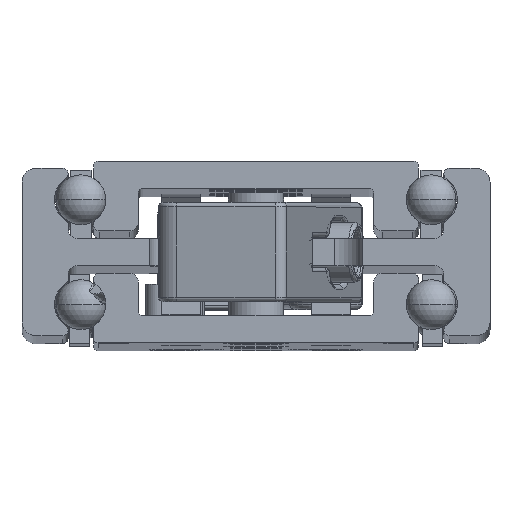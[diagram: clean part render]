
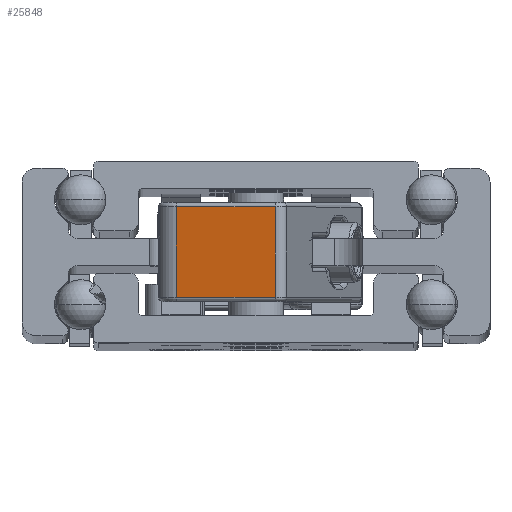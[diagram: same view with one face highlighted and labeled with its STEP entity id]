
A CAD part, top view. The second image highlights one B-rep face of the part: STEP entity #25848.
In plain terms, the highlighted planar face has unit normal (-0.225, 0, 0.974) as drawn and (-1, 0, 0) by its records, which use the part's own axes.
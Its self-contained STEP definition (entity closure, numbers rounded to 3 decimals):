
#2814 = LINE ( 'NONE', #23986, #20105 ) ;
#3807 = VERTEX_POINT ( 'NONE', #17914 ) ;
#4659 = DIRECTION ( 'NONE',  ( 0., -1., 0. ) ) ;
#6021 = LINE ( 'NONE', #13073, #7589 ) ;
#6763 = EDGE_CURVE ( 'NONE', #11718, #29014, #2814, .T. ) ;
#7589 = VECTOR ( 'NONE', #8477, 1000. ) ;
#8477 = DIRECTION ( 'NONE',  ( 0., 1., 0. ) ) ;
#9177 = LINE ( 'NONE', #14230, #11961 ) ;
#10077 = ORIENTED_EDGE ( 'NONE', *, *, #6763, .T. ) ;
#10475 = ORIENTED_EDGE ( 'NONE', *, *, #26942, .T. ) ;
#11718 = VERTEX_POINT ( 'NONE', #29239 ) ;
#11732 = EDGE_LOOP ( 'NONE', ( #19348, #10077, #28261, #10475 ) ) ;
#11961 = VECTOR ( 'NONE', #16239, 1000. ) ;
#12520 = CARTESIAN_POINT ( 'NONE',  ( -37., 8., 5.4 ) ) ;
#12929 = FACE_OUTER_BOUND ( 'NONE', #11732, .T. ) ;
#13073 = CARTESIAN_POINT ( 'NONE',  ( -37., 8., 4.9 ) ) ;
#14230 = CARTESIAN_POINT ( 'NONE',  ( -37., -3., 5.4 ) ) ;
#14232 = EDGE_CURVE ( 'NONE', #18238, #11718, #24327, .T. ) ;
#14765 = CARTESIAN_POINT ( 'NONE',  ( -37., -4., 5.4 ) ) ;
#16239 = DIRECTION ( 'NONE',  ( 0., 0., 1. ) ) ;
#16386 = CARTESIAN_POINT ( 'NONE',  ( -37., 8., 4.9 ) ) ;
#17021 = CARTESIAN_POINT ( 'NONE',  ( -37., -3., -4.9 ) ) ;
#17914 = CARTESIAN_POINT ( 'NONE',  ( -37., -3., 4.9 ) ) ;
#18238 = VERTEX_POINT ( 'NONE', #16386 ) ;
#19348 = ORIENTED_EDGE ( 'NONE', *, *, #14232, .T. ) ;
#19987 = DIRECTION ( 'NONE',  ( 1., 0., 0. ) ) ;
#20105 = VECTOR ( 'NONE', #4659, 1000. ) ;
#21544 = VECTOR ( 'NONE', #26473, 1000. ) ;
#23986 = CARTESIAN_POINT ( 'NONE',  ( -37., -4., -4.9 ) ) ;
#24186 = AXIS2_PLACEMENT_3D ( 'NONE', #14765, #19987, #27026 ) ;
#24327 = LINE ( 'NONE', #12520, #21544 ) ;
#25848 = ADVANCED_FACE ( 'NONE', ( #12929 ), #29175, .F. ) ;
#26473 = DIRECTION ( 'NONE',  ( 0., 0., -1. ) ) ;
#26644 = EDGE_CURVE ( 'NONE', #29014, #3807, #9177, .T. ) ;
#26942 = EDGE_CURVE ( 'NONE', #3807, #18238, #6021, .T. ) ;
#27026 = DIRECTION ( 'NONE',  ( 0., 1., 0. ) ) ;
#28261 = ORIENTED_EDGE ( 'NONE', *, *, #26644, .T. ) ;
#29014 = VERTEX_POINT ( 'NONE', #17021 ) ;
#29175 = PLANE ( 'NONE',  #24186 ) ;
#29239 = CARTESIAN_POINT ( 'NONE',  ( -37., 8., -4.9 ) ) ;
